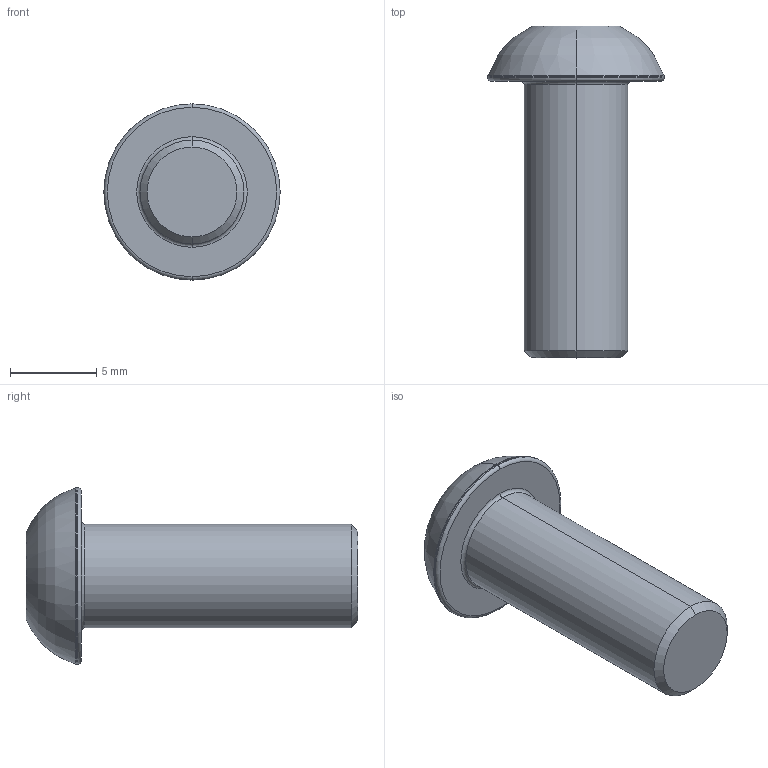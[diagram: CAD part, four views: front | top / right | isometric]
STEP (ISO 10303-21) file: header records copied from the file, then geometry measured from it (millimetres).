
FILE_DESCRIPTION (( 'STEP AP203' ), '1' );
FILE_NAME ('LGDD-TD-M6x16.STEP', '2026-08-14T01:29:07', ( '' ), ( '' ), 'SwSTEP 2.0', 'SolidWorks 2020', '' );
FILE_SCHEMA (( 'CONFIG_CONTROL_DESIGN' ));
Length unit declared in the file: millimetre
Products named in the file (1): LGDD-TD-M6x16
Bounding box: 10.2 x 19.2 x 10.2 mm (x, y, z)
Volume: 601.8 mm3; surface area: 543.3 mm2
Topology: 1 solids, 1 shells, 31 faces, 59 edges, 32 vertices
Faces by surface type: plane 10, cone 9, torus 8, cylinder 4
Entity records: 860 total; most frequent: CARTESIAN_POINT 150, DIRECTION 149, ORIENTED_EDGE 118, AXIS2_PLACEMENT_3D 65, EDGE_CURVE 59, EDGE_LOOP 33, CIRCLE 33, VERTEX_POINT 32
